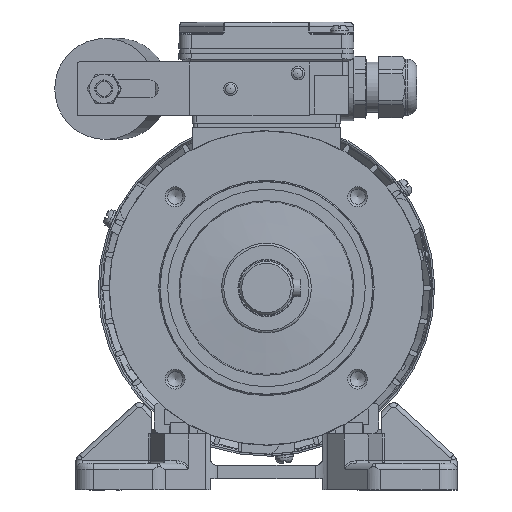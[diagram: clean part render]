
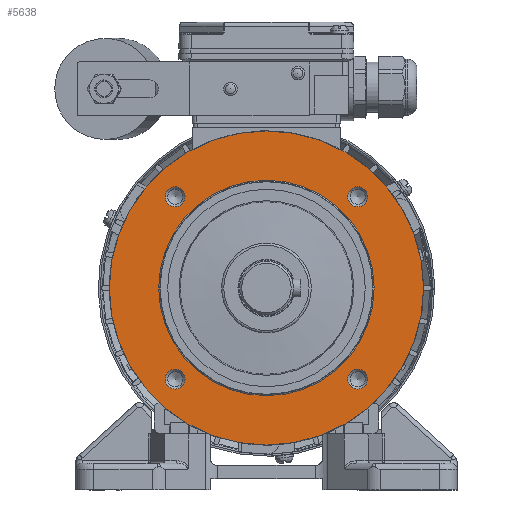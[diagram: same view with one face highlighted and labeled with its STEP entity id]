
A CAD part, left-side view. The second image highlights one B-rep face of the part: STEP entity #5638.
In plain terms, the highlighted planar face has unit normal (-1, 0, 0) as drawn and (0, -1, 0) by its records, which use the part's own axes.
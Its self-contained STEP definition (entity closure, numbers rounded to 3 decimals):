
#5638 = ADVANCED_FACE( '', ( #12980, #12981, #12982, #12983, #12984, #12985 ), #12986, .F. );
#12980 = FACE_BOUND( '', #29413, .T. );
#12981 = FACE_BOUND( '', #29414, .T. );
#12982 = FACE_BOUND( '', #29415, .T. );
#12983 = FACE_BOUND( '', #29416, .T. );
#12984 = FACE_BOUND( '', #29417, .T. );
#12985 = FACE_OUTER_BOUND( '', #29418, .T. );
#12986 = PLANE( '', #29419 );
#29413 = EDGE_LOOP( '', ( #63791 ) );
#29414 = EDGE_LOOP( '', ( #63792 ) );
#29415 = EDGE_LOOP( '', ( #63793 ) );
#29416 = EDGE_LOOP( '', ( #63794 ) );
#29417 = EDGE_LOOP( '', ( #63795 ) );
#29418 = EDGE_LOOP( '', ( #63796 ) );
#29419 = AXIS2_PLACEMENT_3D( '', #63797, #63798, #63799 );
#63791 = ORIENTED_EDGE( '', *, *, #88301, .T. );
#63792 = ORIENTED_EDGE( '', *, *, #88302, .T. );
#63793 = ORIENTED_EDGE( '', *, *, #88303, .T. );
#63794 = ORIENTED_EDGE( '', *, *, #88304, .T. );
#63795 = ORIENTED_EDGE( '', *, *, #88305, .T. );
#63796 = ORIENTED_EDGE( '', *, *, #88306, .T. );
#63797 = CARTESIAN_POINT( '', ( 0., 3., 70. ) );
#63798 = DIRECTION( '', ( 0., 1., 0. ) );
#63799 = DIRECTION( '', ( 0., 0., 1. ) );
#88301 = EDGE_CURVE( '', #104198, #104198, #104199, .T. );
#88302 = EDGE_CURVE( '', #104200, #104200, #104201, .T. );
#88303 = EDGE_CURVE( '', #104202, #104202, #104203, .T. );
#88304 = EDGE_CURVE( '', #104204, #104204, #104205, .T. );
#88305 = EDGE_CURVE( '', #104206, #104206, #104207, .T. );
#88306 = EDGE_CURVE( '', #104208, #104208, #104209, .T. );
#104198 = VERTEX_POINT( '', #131998 );
#104199 = CIRCLE( '', #131999, 4.4 );
#104200 = VERTEX_POINT( '', #132000 );
#104201 = CIRCLE( '', #132001, 4.4 );
#104202 = VERTEX_POINT( '', #132002 );
#104203 = CIRCLE( '', #132003, 4.4 );
#104204 = VERTEX_POINT( '', #132004 );
#104205 = CIRCLE( '', #132005, 4.4 );
#104206 = VERTEX_POINT( '', #132006 );
#104207 = CIRCLE( '', #132007, 48. );
#104208 = VERTEX_POINT( '', #132008 );
#104209 = CIRCLE( '', #132009, 70. );
#131998 = CARTESIAN_POINT( '', ( -40.659, 3., -36.259 ) );
#131999 = AXIS2_PLACEMENT_3D( '', #161224, #161225, #161226 );
#132000 = CARTESIAN_POINT( '', ( 40.659, 3., -36.259 ) );
#132001 = AXIS2_PLACEMENT_3D( '', #161227, #161228, #161229 );
#132002 = CARTESIAN_POINT( '', ( 40.659, 3., 45.059 ) );
#132003 = AXIS2_PLACEMENT_3D( '', #161230, #161231, #161232 );
#132004 = CARTESIAN_POINT( '', ( -40.659, 3., 45.059 ) );
#132005 = AXIS2_PLACEMENT_3D( '', #161233, #161234, #161235 );
#132006 = CARTESIAN_POINT( '', ( 0., 3., 48. ) );
#132007 = AXIS2_PLACEMENT_3D( '', #161236, #161237, #161238 );
#132008 = CARTESIAN_POINT( '', ( 0., 3., -70. ) );
#132009 = AXIS2_PLACEMENT_3D( '', #161239, #161240, #161241 );
#161224 = CARTESIAN_POINT( '', ( -40.659, 3., -40.659 ) );
#161225 = DIRECTION( '', ( 0., 1., 0. ) );
#161226 = DIRECTION( '', ( 0., 0., 1. ) );
#161227 = CARTESIAN_POINT( '', ( 40.659, 3., -40.659 ) );
#161228 = DIRECTION( '', ( 0., 1., 0. ) );
#161229 = DIRECTION( '', ( 0., 0., 1. ) );
#161230 = CARTESIAN_POINT( '', ( 40.659, 3., 40.659 ) );
#161231 = DIRECTION( '', ( 0., 1., 0. ) );
#161232 = DIRECTION( '', ( 0., 0., 1. ) );
#161233 = CARTESIAN_POINT( '', ( -40.659, 3., 40.659 ) );
#161234 = DIRECTION( '', ( 0., 1., 0. ) );
#161235 = DIRECTION( '', ( 0., 0., 1. ) );
#161236 = CARTESIAN_POINT( '', ( 0., 3., 0. ) );
#161237 = DIRECTION( '', ( 0., 1., 0. ) );
#161238 = DIRECTION( '', ( 0., 0., 1. ) );
#161239 = CARTESIAN_POINT( '', ( 0., 3., 0. ) );
#161240 = DIRECTION( '', ( 0., -1., 0. ) );
#161241 = DIRECTION( '', ( 0., 0., -1. ) );
